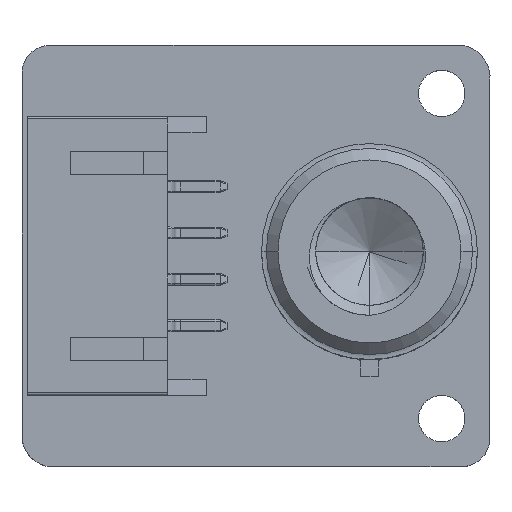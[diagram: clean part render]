
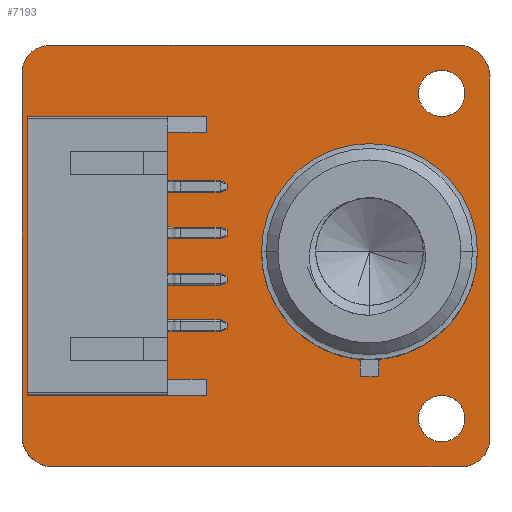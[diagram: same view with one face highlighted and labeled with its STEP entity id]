
A CAD part, top view. The second image highlights one B-rep face of the part: STEP entity #7193.
In plain terms, the highlighted planar face has unit normal (0, 0, 1).
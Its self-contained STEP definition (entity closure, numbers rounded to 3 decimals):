
#6475=FACE_BOUND('',#10627,.T.);
#6476=FACE_BOUND('',#10628,.T.);
#6477=FACE_BOUND('',#10629,.T.);
#6478=FACE_BOUND('',#10630,.T.);
#6479=FACE_BOUND('',#10631,.T.);
#6480=FACE_BOUND('',#10632,.T.);
#6481=FACE_BOUND('',#10633,.T.);
#6826=CIRCLE('',#29680,1.207);
#6828=CIRCLE('',#29684,0.077);
#6830=CIRCLE('',#29687,1.438);
#6832=CIRCLE('',#29690,0.432);
#6834=CIRCLE('',#29694,1.252);
#6836=CIRCLE('',#29698,1.368);
#6839=CIRCLE('',#29702,0.4);
#6841=CIRCLE('',#29705,0.4);
#6843=CIRCLE('',#29708,0.4);
#6845=CIRCLE('',#29711,1.);
#6847=CIRCLE('',#29714,0.4);
#6849=CIRCLE('',#29717,1.);
#7193=ADVANCED_FACE('',(#6475,#6476,#6477,#6478,#6479,#6480,#6481),#8512,
 .F.);
#8512=PLANE('',#29720);
#10627=EDGE_LOOP('',(#16915,#16916,#16917,#16918,#16919,#16920,#16921,#16922,
#16923,#16924));
#10628=EDGE_LOOP('',(#16925));
#10629=EDGE_LOOP('',(#16926));
#10630=EDGE_LOOP('',(#16927));
#10631=EDGE_LOOP('',(#16928));
#10632=EDGE_LOOP('',(#16929));
#10633=EDGE_LOOP('',(#16930));
#12041=LINE('',#36449,#14441);
#12044=LINE('',#36469,#14444);
#12050=LINE('',#36493,#14450);
#12053=LINE('',#36513,#14453);
#14441=VECTOR('',#31133,1.);
#14444=VECTOR('',#31144,1.);
#14450=VECTOR('',#31170,1.);
#14453=VECTOR('',#31181,1.);
#16915=ORIENTED_EDGE('',*,*,#25814,.F.);
#16916=ORIENTED_EDGE('',*,*,#25811,.F.);
#16917=ORIENTED_EDGE('',*,*,#25840,.F.);
#16918=ORIENTED_EDGE('',*,*,#25837,.F.);
#16919=ORIENTED_EDGE('',*,*,#25834,.F.);
#16920=ORIENTED_EDGE('',*,*,#25830,.F.);
#16921=ORIENTED_EDGE('',*,*,#25827,.F.);
#16922=ORIENTED_EDGE('',*,*,#25824,.F.);
#16923=ORIENTED_EDGE('',*,*,#25821,.F.);
#16924=ORIENTED_EDGE('',*,*,#25818,.F.);
#16925=ORIENTED_EDGE('',*,*,#25853,.F.);
#16926=ORIENTED_EDGE('',*,*,#25849,.F.);
#16927=ORIENTED_EDGE('',*,*,#25851,.F.);
#16928=ORIENTED_EDGE('',*,*,#25843,.F.);
#16929=ORIENTED_EDGE('',*,*,#25847,.F.);
#16930=ORIENTED_EDGE('',*,*,#25845,.F.);
#23605=VERTEX_POINT('',#36448);
#23606=VERTEX_POINT('',#36450);
#23608=VERTEX_POINT('',#36456);
#23611=VERTEX_POINT('',#36470);
#23613=VERTEX_POINT('',#36476);
#23615=VERTEX_POINT('',#36482);
#23617=VERTEX_POINT('',#36488);
#23619=VERTEX_POINT('',#36494);
#23622=VERTEX_POINT('',#36508);
#23624=VERTEX_POINT('',#36514);
#23627=VERTEX_POINT('',#36525);
#23629=VERTEX_POINT('',#36530);
#23631=VERTEX_POINT('',#36535);
#23633=VERTEX_POINT('',#36540);
#23635=VERTEX_POINT('',#36545);
#23637=VERTEX_POINT('',#36550);
#25811=EDGE_CURVE('',#23605,#23606,#12041,.T.);
#25814=EDGE_CURVE('',#23606,#23608,#6826,.T.);
#25818=EDGE_CURVE('',#23608,#23611,#12044,.T.);
#25821=EDGE_CURVE('',#23611,#23613,#6828,.T.);
#25824=EDGE_CURVE('',#23613,#23615,#6830,.T.);
#25827=EDGE_CURVE('',#23615,#23617,#6832,.T.);
#25830=EDGE_CURVE('',#23617,#23619,#12050,.T.);
#25834=EDGE_CURVE('',#23619,#23622,#6834,.T.);
#25837=EDGE_CURVE('',#23622,#23624,#12053,.T.);
#25840=EDGE_CURVE('',#23624,#23605,#6836,.T.);
#25843=EDGE_CURVE('',#23627,#23627,#6839,.T.);
#25845=EDGE_CURVE('',#23629,#23629,#6841,.T.);
#25847=EDGE_CURVE('',#23631,#23631,#6843,.T.);
#25849=EDGE_CURVE('',#23633,#23633,#6845,.T.);
#25851=EDGE_CURVE('',#23635,#23635,#6847,.T.);
#25853=EDGE_CURVE('',#23637,#23637,#6849,.T.);
#29680=AXIS2_PLACEMENT_3D('',#36455,#31138,#31139);
#29684=AXIS2_PLACEMENT_3D('',#36475,#31149,#31150);
#29687=AXIS2_PLACEMENT_3D('',#36481,#31156,#31157);
#29690=AXIS2_PLACEMENT_3D('',#36487,#31163,#31164);
#29694=AXIS2_PLACEMENT_3D('',#36507,#31174,#31175);
#29698=AXIS2_PLACEMENT_3D('',#36519,#31186,#31187);
#29702=AXIS2_PLACEMENT_3D('',#36524,#31194,#31195);
#29705=AXIS2_PLACEMENT_3D('',#36529,#31200,#31201);
#29708=AXIS2_PLACEMENT_3D('',#36534,#31206,#31207);
#29711=AXIS2_PLACEMENT_3D('',#36539,#31212,#31213);
#29714=AXIS2_PLACEMENT_3D('',#36544,#31218,#31219);
#29717=AXIS2_PLACEMENT_3D('',#36549,#31224,#31225);
#29720=AXIS2_PLACEMENT_3D('',#36553,#31230,#31231);
#31133=DIRECTION('',(0.,1.,0.));
#31138=DIRECTION('',(0.,0.,-1.));
#31139=DIRECTION('',(-1.,-0.011,0.));
#31144=DIRECTION('',(1.,0.,0.));
#31149=DIRECTION('',(0.,0.,-1.));
#31150=DIRECTION('',(-0.443,0.896,0.));
#31156=DIRECTION('',(0.,0.,-1.));
#31157=DIRECTION('',(0.149,0.989,0.));
#31163=DIRECTION('',(0.,0.,-1.));
#31164=DIRECTION('',(0.989,0.149,0.));
#31170=DIRECTION('',(0.,-1.,0.));
#31174=DIRECTION('',(0.,0.,-1.));
#31175=DIRECTION('',(0.998,-0.068,0.));
#31181=DIRECTION('',(-1.,0.,0.));
#31186=DIRECTION('',(0.,0.,-1.));
#31187=DIRECTION('',(0.104,-0.995,0.));
#31194=DIRECTION('',(0.,0.,1.));
#31195=DIRECTION('',(1.,0.,0.));
#31200=DIRECTION('',(0.,0.,1.));
#31201=DIRECTION('',(1.,0.,0.));
#31206=DIRECTION('',(0.,0.,1.));
#31207=DIRECTION('',(1.,0.,0.));
#31212=DIRECTION('',(0.,0.,1.));
#31213=DIRECTION('',(1.,0.,0.));
#31218=DIRECTION('',(0.,0.,1.));
#31219=DIRECTION('',(1.,0.,0.));
#31224=DIRECTION('',(0.,0.,1.));
#31225=DIRECTION('',(1.,0.,0.));
#31230=DIRECTION('',(0.,0.,-1.));
#31231=DIRECTION('',(-1.,0.,0.));
#36448=CARTESIAN_POINT('',(-0.076,1.139,1.5));
#36449=CARTESIAN_POINT('',(-0.077,1.143,1.5));
#36450=CARTESIAN_POINT('',(-0.077,16.857,1.5));
#36455=CARTESIAN_POINT('',(1.13,16.87,1.5));
#36456=CARTESIAN_POINT('',(1.118,18.077,1.5));
#36469=CARTESIAN_POINT('',(1.118,18.077,1.5));
#36470=CARTESIAN_POINT('',(18.812,18.077,1.5));
#36475=CARTESIAN_POINT('',(18.846,18.008,1.5));
#36476=CARTESIAN_POINT('',(18.858,18.084,1.5));
#36481=CARTESIAN_POINT('',(18.644,16.662,1.5));
#36482=CARTESIAN_POINT('',(20.075,16.525,1.5));
#36487=CARTESIAN_POINT('',(19.648,16.46,1.5));
#36488=CARTESIAN_POINT('',(20.077,16.51,1.5));
#36493=CARTESIAN_POINT('',(20.077,16.51,1.5));
#36494=CARTESIAN_POINT('',(20.076,1.09,1.5));
#36507=CARTESIAN_POINT('',(18.827,1.173,1.5));
#36508=CARTESIAN_POINT('',(18.743,-0.077,1.5));
#36513=CARTESIAN_POINT('',(18.743,-0.077,1.5));
#36514=CARTESIAN_POINT('',(1.426,-0.077,1.5));
#36519=CARTESIAN_POINT('',(1.284,1.284,1.5));
#36524=CARTESIAN_POINT('',(15.985,6.458,1.5));
#36525=CARTESIAN_POINT('',(16.385,6.458,1.5));
#36529=CARTESIAN_POINT('',(13.789,6.512,1.5));
#36530=CARTESIAN_POINT('',(14.189,6.512,1.5));
#36534=CARTESIAN_POINT('',(13.842,11.946,1.5));
#36535=CARTESIAN_POINT('',(14.242,11.946,1.5));
#36539=CARTESIAN_POINT('',(18.,2.,1.5));
#36540=CARTESIAN_POINT('',(19.,2.,1.5));
#36544=CARTESIAN_POINT('',(16.024,11.962,1.5));
#36545=CARTESIAN_POINT('',(16.424,11.962,1.5));
#36549=CARTESIAN_POINT('',(18.,16.,1.5));
#36550=CARTESIAN_POINT('',(19.,16.,1.5));
#36553=CARTESIAN_POINT('',(1.13,16.87,1.5));
